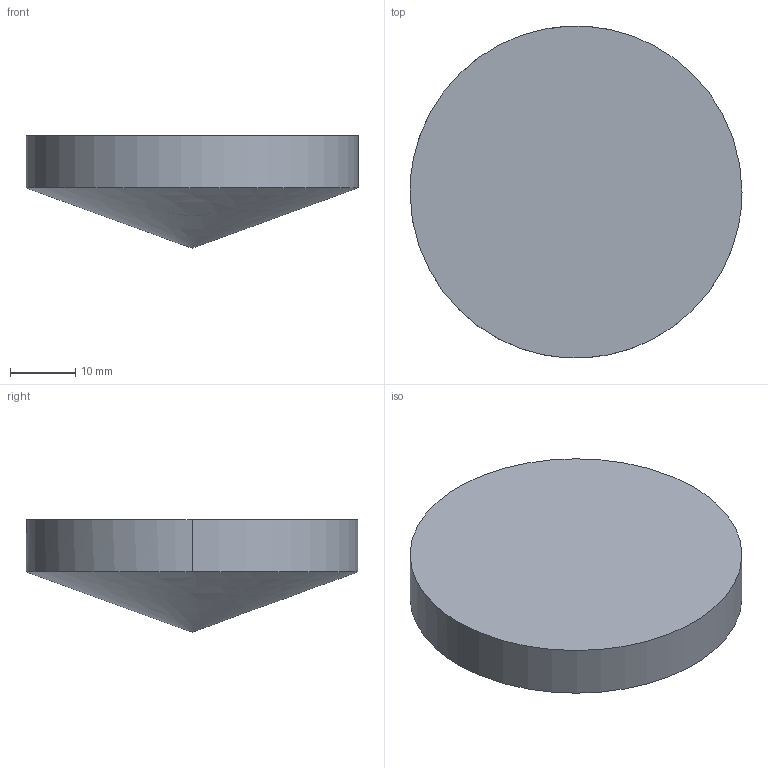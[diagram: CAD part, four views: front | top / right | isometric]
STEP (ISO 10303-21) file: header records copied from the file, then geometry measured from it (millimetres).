
FILE_DESCRIPTION ((), '1');
FILE_NAME ('\\fileserver\Daten\Applikationen\Optikdesign\SPA-Design\aktuelle SPA-Designs\Linsenkataloge - 2016-Juni\Zemax\XFL\XFL50-200.STP', '2016-05-24T14:30:17', ('Unknown'), ('Unknown'), 'HarmonyWare STEP v2.0.1', 'HarmonyWare Translators', '');
FILE_SCHEMA (('CONFIG_CONTROL_DESIGN'));
Length unit declared in the file: millimetre
Products named in the file (1): NONE
Bounding box: 50.8 x 50.75 x 17.24 mm (x, y, z)
Volume: 22470.6 mm3; surface area: 5462.2 mm2
Topology: 1 solids, 1 shells, 4 faces, 9 edges, 6 vertices
Faces by surface type: cylinder 2, bspline 1, plane 1
Entity records: 295 total; most frequent: CARTESIAN_POINT 144, ORIENTED_EDGE 16, EDGE_CURVE 8, PERSON 8, ORGANIZATION 8, PERSON_AND_ORGANIZATION 8, VERTEX_POINT 6, DIRECTION 6
